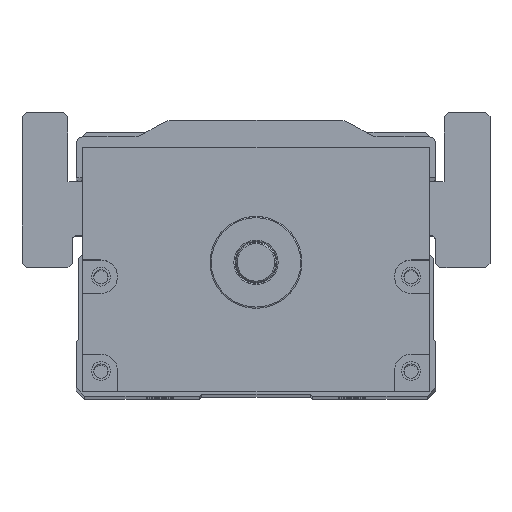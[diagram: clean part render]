
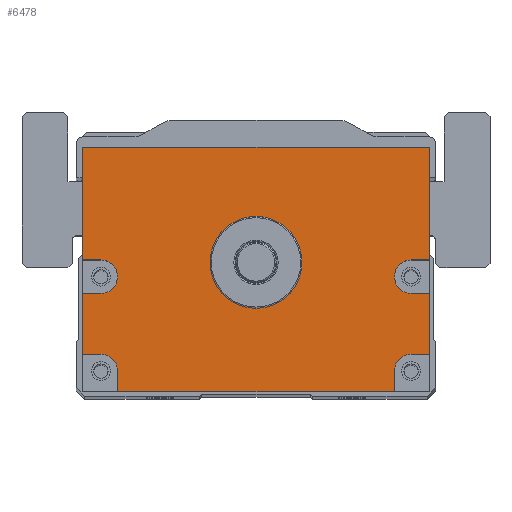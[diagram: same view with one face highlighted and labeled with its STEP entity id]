
A CAD part, top view. The second image highlights one B-rep face of the part: STEP entity #6478.
In plain terms, the highlighted planar face has unit normal (0, 0, 1).
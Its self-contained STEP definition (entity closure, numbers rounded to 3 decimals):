
#5121=FACE_BOUND('',#8701,.T.);
#5122=FACE_BOUND('',#8702,.T.);
#5766=CIRCLE('',#20415,11.);
#5777=CIRCLE('',#20429,4.);
#5778=CIRCLE('',#20430,4.);
#5779=CIRCLE('',#20431,4.);
#5780=CIRCLE('',#20432,4.);
#6478=ADVANCED_FACE('',(#5121,#5122),#7260,.T.);
#7260=PLANE('',#20433);
#8701=EDGE_LOOP('',(#10897,#10898,#10899,#10900,#10901,#10902,#10903,#10904,
#10905,#10906,#10907,#10908,#10909,#10910,#10911,#10912,#10913,#10914));
#8702=EDGE_LOOP('',(#10915));
#10897=ORIENTED_EDGE('',*,*,#16117,.F.);
#10898=ORIENTED_EDGE('',*,*,#16118,.T.);
#10899=ORIENTED_EDGE('',*,*,#16119,.F.);
#10900=ORIENTED_EDGE('',*,*,#16120,.F.);
#10901=ORIENTED_EDGE('',*,*,#16121,.F.);
#10902=ORIENTED_EDGE('',*,*,#16122,.T.);
#10903=ORIENTED_EDGE('',*,*,#16113,.T.);
#10904=ORIENTED_EDGE('',*,*,#16123,.T.);
#10905=ORIENTED_EDGE('',*,*,#16124,.F.);
#10906=ORIENTED_EDGE('',*,*,#16125,.F.);
#10907=ORIENTED_EDGE('',*,*,#16126,.F.);
#10908=ORIENTED_EDGE('',*,*,#16127,.T.);
#10909=ORIENTED_EDGE('',*,*,#16128,.F.);
#10910=ORIENTED_EDGE('',*,*,#16129,.F.);
#10911=ORIENTED_EDGE('',*,*,#16130,.F.);
#10912=ORIENTED_EDGE('',*,*,#16131,.T.);
#10913=ORIENTED_EDGE('',*,*,#16132,.F.);
#10914=ORIENTED_EDGE('',*,*,#16133,.F.);
#10915=ORIENTED_EDGE('',*,*,#16099,.T.);
#14363=VERTEX_POINT('',#35806);
#14376=VERTEX_POINT('',#35834);
#14377=VERTEX_POINT('',#35836);
#14380=VERTEX_POINT('',#35844);
#14381=VERTEX_POINT('',#35845);
#14382=VERTEX_POINT('',#35847);
#14383=VERTEX_POINT('',#35849);
#14384=VERTEX_POINT('',#35851);
#14385=VERTEX_POINT('',#35853);
#14386=VERTEX_POINT('',#35856);
#14387=VERTEX_POINT('',#35858);
#14388=VERTEX_POINT('',#35860);
#14389=VERTEX_POINT('',#35862);
#14390=VERTEX_POINT('',#35864);
#14391=VERTEX_POINT('',#35866);
#14392=VERTEX_POINT('',#35868);
#14393=VERTEX_POINT('',#35870);
#14394=VERTEX_POINT('',#35872);
#14395=VERTEX_POINT('',#35874);
#16099=EDGE_CURVE('',#14363,#14363,#5766,.T.);
#16113=EDGE_CURVE('',#14377,#14376,#17928,.T.);
#16117=EDGE_CURVE('',#14380,#14381,#17930,.T.);
#16118=EDGE_CURVE('',#14380,#14382,#17931,.T.);
#16119=EDGE_CURVE('',#14383,#14382,#17932,.T.);
#16120=EDGE_CURVE('',#14384,#14383,#5777,.T.);
#16121=EDGE_CURVE('',#14385,#14384,#17933,.T.);
#16122=EDGE_CURVE('',#14385,#14377,#17934,.T.);
#16123=EDGE_CURVE('',#14376,#14386,#17935,.T.);
#16124=EDGE_CURVE('',#14387,#14386,#17936,.T.);
#16125=EDGE_CURVE('',#14388,#14387,#5778,.T.);
#16126=EDGE_CURVE('',#14389,#14388,#17937,.T.);
#16127=EDGE_CURVE('',#14389,#14390,#17938,.T.);
#16128=EDGE_CURVE('',#14391,#14390,#17939,.T.);
#16129=EDGE_CURVE('',#14392,#14391,#5779,.T.);
#16130=EDGE_CURVE('',#14393,#14392,#17940,.T.);
#16131=EDGE_CURVE('',#14393,#14394,#17941,.T.);
#16132=EDGE_CURVE('',#14395,#14394,#17942,.T.);
#16133=EDGE_CURVE('',#14381,#14395,#5780,.T.);
#17928=LINE('',#35835,#19100);
#17930=LINE('',#35843,#19102);
#17931=LINE('',#35846,#19103);
#17932=LINE('',#35848,#19104);
#17933=LINE('',#35852,#19105);
#17934=LINE('',#35854,#19106);
#17935=LINE('',#35855,#19107);
#17936=LINE('',#35857,#19108);
#17937=LINE('',#35861,#19109);
#17938=LINE('',#35863,#19110);
#17939=LINE('',#35865,#19111);
#17940=LINE('',#35869,#19112);
#17941=LINE('',#35871,#19113);
#17942=LINE('',#35873,#19114);
#19100=VECTOR('',#22765,1.);
#19102=VECTOR('',#22773,1.);
#19103=VECTOR('',#22774,1.);
#19104=VECTOR('',#22775,1.);
#19105=VECTOR('',#22778,1.);
#19106=VECTOR('',#22779,1.);
#19107=VECTOR('',#22780,1.);
#19108=VECTOR('',#22781,1.);
#19109=VECTOR('',#22784,1.);
#19110=VECTOR('',#22785,1.);
#19111=VECTOR('',#22786,1.);
#19112=VECTOR('',#22789,1.);
#19113=VECTOR('',#22790,1.);
#19114=VECTOR('',#22791,1.);
#20415=AXIS2_PLACEMENT_3D('',#35805,#22738,#22739);
#20429=AXIS2_PLACEMENT_3D('',#35850,#22776,#22777);
#20430=AXIS2_PLACEMENT_3D('',#35859,#22782,#22783);
#20431=AXIS2_PLACEMENT_3D('',#35867,#22787,#22788);
#20432=AXIS2_PLACEMENT_3D('',#35875,#22792,#22793);
#20433=AXIS2_PLACEMENT_3D('',#35876,#22794,#22795);
#22738=DIRECTION('',(0.,0.,-1.));
#22739=DIRECTION('',(1.,0.,0.));
#22765=DIRECTION('',(-1.,0.,0.));
#22773=DIRECTION('',(-1.,0.,0.));
#22774=DIRECTION('',(0.,1.,0.));
#22775=DIRECTION('',(1.,0.,0.));
#22776=DIRECTION('',(0.,0.,1.));
#22777=DIRECTION('',(1.,0.,0.));
#22778=DIRECTION('',(-1.,0.,0.));
#22779=DIRECTION('',(0.,1.,0.));
#22780=DIRECTION('',(0.,-1.,0.));
#22781=DIRECTION('',(-1.,0.,0.));
#22782=DIRECTION('',(0.,0.,1.));
#22783=DIRECTION('',(1.,0.,0.));
#22784=DIRECTION('',(1.,0.,0.));
#22785=DIRECTION('',(0.,-1.,0.));
#22786=DIRECTION('',(-1.,0.,0.));
#22787=DIRECTION('',(0.,0.,1.));
#22788=DIRECTION('',(1.,0.,0.));
#22789=DIRECTION('',(0.,1.,0.));
#22790=DIRECTION('',(1.,0.,0.));
#22791=DIRECTION('',(0.,-1.,0.));
#22792=DIRECTION('',(0.,0.,1.));
#22793=DIRECTION('',(1.,0.,0.));
#22794=DIRECTION('',(0.,0.,1.));
#22795=DIRECTION('',(1.,0.,0.));
#35805=CARTESIAN_POINT('',(600.,0.,282.5));
#35806=CARTESIAN_POINT('',(611.,0.,282.5));
#35834=CARTESIAN_POINT('',(558.5,27.5,282.5));
#35835=CARTESIAN_POINT('',(641.5,27.5,282.5));
#35836=CARTESIAN_POINT('',(641.5,27.5,282.5));
#35843=CARTESIAN_POINT('',(641.5,-22.,282.5));
#35844=CARTESIAN_POINT('',(641.5,-22.,282.5));
#35845=CARTESIAN_POINT('',(637.115,-22.,282.5));
#35846=CARTESIAN_POINT('',(641.5,-31.,282.5));
#35847=CARTESIAN_POINT('',(641.5,-7.431,282.5));
#35848=CARTESIAN_POINT('',(641.5,-7.431,282.5));
#35849=CARTESIAN_POINT('',(637.115,-7.431,282.5));
#35850=CARTESIAN_POINT('',(637.115,-3.431,282.5));
#35851=CARTESIAN_POINT('',(637.115,0.569,282.5));
#35852=CARTESIAN_POINT('',(641.5,0.569,282.5));
#35853=CARTESIAN_POINT('',(641.5,0.569,282.5));
#35854=CARTESIAN_POINT('',(641.5,-31.,282.5));
#35855=CARTESIAN_POINT('',(558.5,27.5,282.5));
#35856=CARTESIAN_POINT('',(558.5,0.569,282.5));
#35857=CARTESIAN_POINT('',(641.5,0.569,282.5));
#35858=CARTESIAN_POINT('',(562.885,0.569,282.5));
#35859=CARTESIAN_POINT('',(562.885,-3.431,282.5));
#35860=CARTESIAN_POINT('',(562.885,-7.431,282.5));
#35861=CARTESIAN_POINT('',(641.5,-7.431,282.5));
#35862=CARTESIAN_POINT('',(558.5,-7.431,282.5));
#35863=CARTESIAN_POINT('',(558.5,27.5,282.5));
#35864=CARTESIAN_POINT('',(558.5,-22.,282.5));
#35865=CARTESIAN_POINT('',(641.5,-22.,282.5));
#35866=CARTESIAN_POINT('',(562.885,-22.,282.5));
#35867=CARTESIAN_POINT('',(562.885,-26.,282.5));
#35868=CARTESIAN_POINT('',(566.885,-26.,282.5));
#35869=CARTESIAN_POINT('',(566.885,-31.,282.5));
#35870=CARTESIAN_POINT('',(566.885,-31.,282.5));
#35871=CARTESIAN_POINT('',(558.5,-31.,282.5));
#35872=CARTESIAN_POINT('',(633.115,-31.,282.5));
#35873=CARTESIAN_POINT('',(633.115,-31.,282.5));
#35874=CARTESIAN_POINT('',(633.115,-26.,282.5));
#35875=CARTESIAN_POINT('',(637.115,-26.,282.5));
#35876=CARTESIAN_POINT('',(641.5,-31.,282.5));
